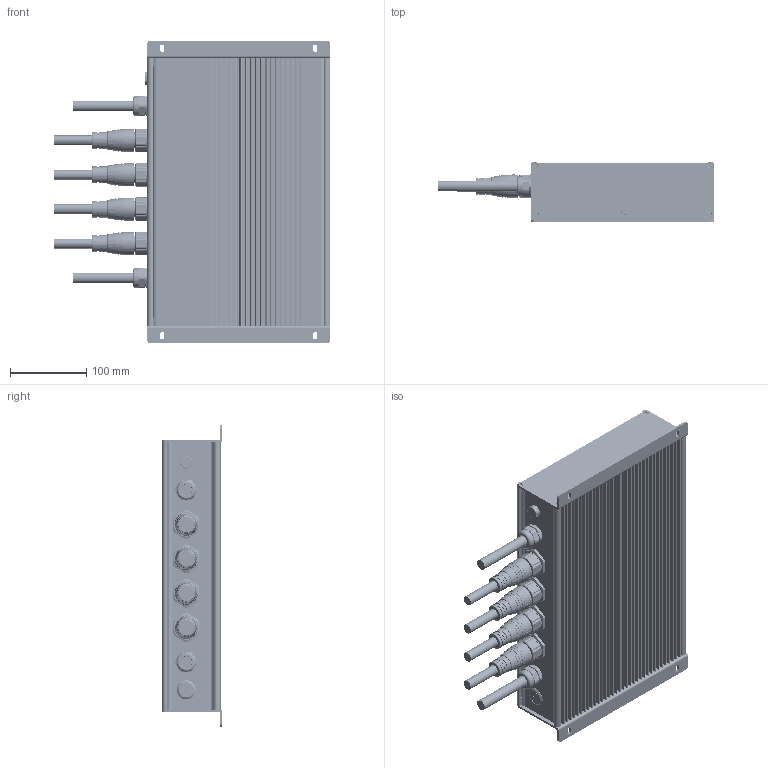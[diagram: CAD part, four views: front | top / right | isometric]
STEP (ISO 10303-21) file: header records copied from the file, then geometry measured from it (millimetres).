
FILE_DESCRIPTION((''),'2;1');
FILE_NAME('DRIVER_ASM','2026-09-18T08:16:53',('dgsjk'),(''),'CREO PARAMETRIC BY PTC INC, 2025102','CREO PARAMETRIC BY PTC INC, 2025102','');
FILE_SCHEMA(('CONFIG_CONTROL_DESIGN'));
Products named in the file (22): LALV; NEICEGAI; PCB-DRV; PCB-RELAY; PCB_ASM; XIANKOU-M20; M20-LUOMU; XIAN; XIANKOU-M20-_ASM; M2560001; KAIGUAN-IP65; GORE-M12XP1-; GAIBAN; CEGAI; M256-1800001; HS-M4X8; POWER-700W; LEIJI; PCB-JIEXIAN; GUAN; PCB-SILICON; DRIVER_ASM
Assembly tree (45 placements, depth 3):
  DRIVER_ASM
    LALV
    NEICEGAI  x2
    PCB_ASM
      PCB-DRV
      PCB-RELAY
    XIANKOU-M20-_ASM  x2
      XIANKOU-M20
      M20-LUOMU
      XIAN
    M2560001  x4
    KAIGUAN-IP65
    GORE-M12XP1-
    GAIBAN
    CEGAI  x2
    M256-1800001  x4
    HS-M4X8  x16
    POWER-700W
    LEIJI
    PCB-JIEXIAN
    GUAN
    PCB-SILICON
Bounding box: 362 x 79 x 396 mm (x, y, z)
Volume: 1781677.1 mm3; surface area: 1193966.7 mm2
Topology: 91 solids, 140 shells, 6758 faces, 18071 edges, 11903 vertices
Faces by surface type: plane 3483, cylinder 1939, cone 500, bspline 462, torus 308, sphere 66
Entity records: 106778 total; most frequent: CARTESIAN_POINT 35269, DIRECTION 15116, ORIENTED_EDGE 14552, EDGE_CURVE 7387, AXIS2_PLACEMENT_3D 5512, VERTEX_POINT 4821, VECTOR 4092, LINE 4092
